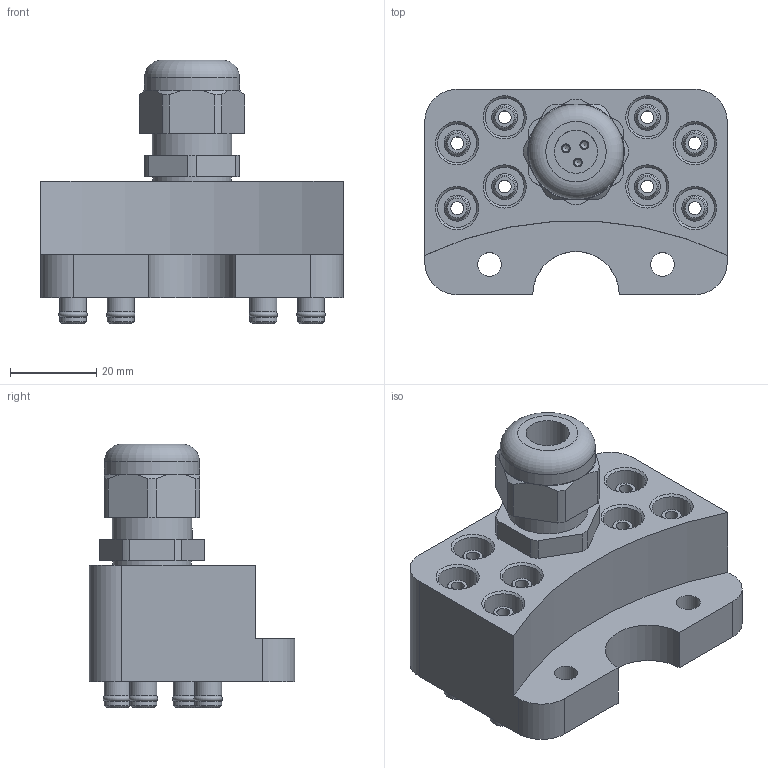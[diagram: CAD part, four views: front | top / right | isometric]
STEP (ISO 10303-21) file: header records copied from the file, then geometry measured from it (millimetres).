
FILE_DESCRIPTION((''),'2;1');
FILE_NAME('T:\CAD\Standard\Daten\Datenbank STANDARD 00\3 MEK\4 - 3D-CAD-Daten MEK 063-160\MEK160\step-Daten\G-MEK160-O-8Pk4-1E12.stp','2012-12-14T09:38:31',('Yvonne'),(''),'Autodesk Inventor 2011','Autodesk Inventor 2011','');
FILE_SCHEMA(('AUTOMOTIVE_DESIGN { 1 0 10303 214 1 1 1 1 }'));
Length unit declared in the file: millimetre
Products named in the file (1): Bauteil1
Bounding box: 70 x 47.5 x 61 mm (x, y, z)
Volume: 64348.9 mm3; surface area: 32944.5 mm2
Topology: 1 solids, 1 shells, 508 faces, 1181 edges, 734 vertices
Faces by surface type: cylinder 207, plane 188, cone 79, torus 22, sphere 12
Full cylindrical faces by diameter (mm): 1 x12, 1.6 x12, 2 x26, 3 x8, 4 x8, 4.2 x16, 4.8 x8, 5.5 x10, 5.9 x8, 6 x8, 6.2 x16, 8 x8, 8.3 x8, 9 x8, 10 x3, 14 x1, 15.9 x1, 17.1 x1, 18.1 x1, 18.5 x1, 22 x1, 23 x2, 25.5 x2
Entity records: 14248 total; most frequent: CARTESIAN_POINT 3375, DIRECTION 2285, ORIENTED_EDGE 1660, AXIS2_PLACEMENT_3D 1014, EDGE_LOOP 903, EDGE_CURVE 830, VERTEX_POINT 650, FACE_OUTER_BOUND 507
